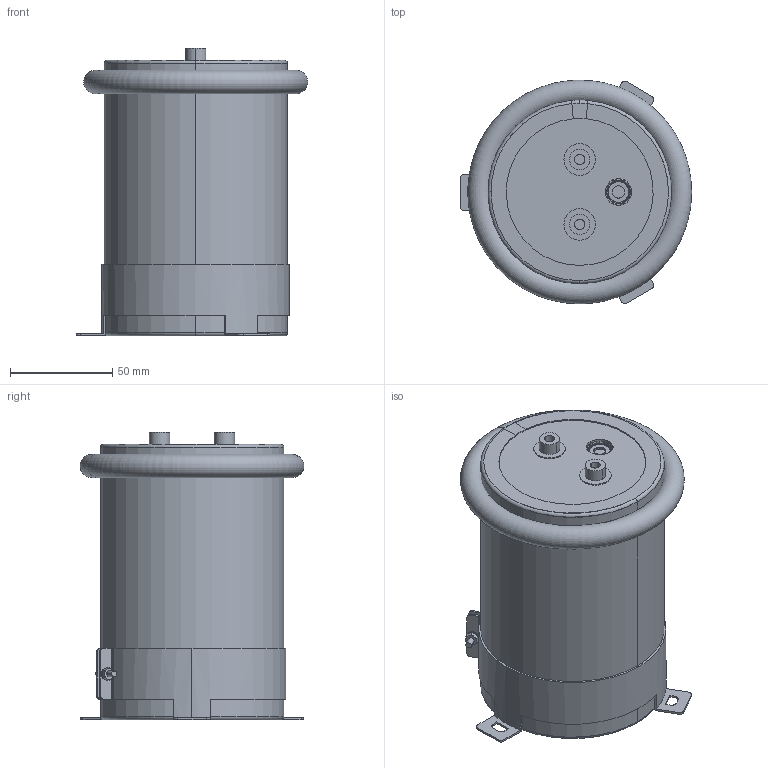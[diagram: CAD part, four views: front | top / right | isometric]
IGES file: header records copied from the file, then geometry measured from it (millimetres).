
Start section: 3D InterOp IGES (v. 2019 1.0.2), Spatial Corp. Copyright (c) 1999-2017.
Global section: file name: 90x135_Screw.igs; native system: Spatial Corp.; preprocessor: 3D InterOp ACIS/IGES; author: Noname; organization: Noname; date: 20220314.180004; units: millimetre
Bounding box: 113.35 x 109.7 x 141 mm (x, y, z)
Volume: 1203520.5 mm3; surface area: 294669.9 mm2
Topology: 9 solids, 9 shells, 352 faces, 953 edges, 591 vertices
Faces by surface type: plane 112, cylinder 110, torus 90, cone 38, sphere 2
